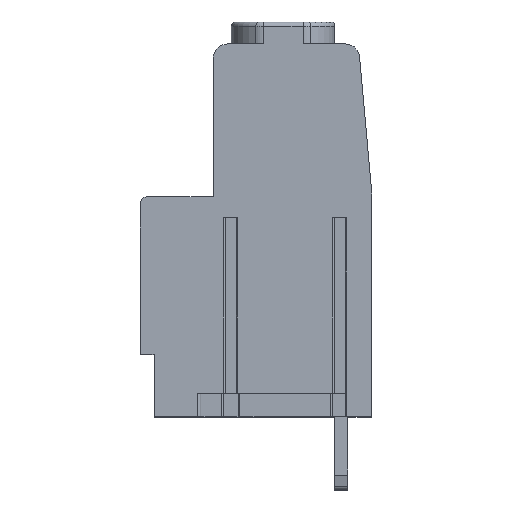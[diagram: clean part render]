
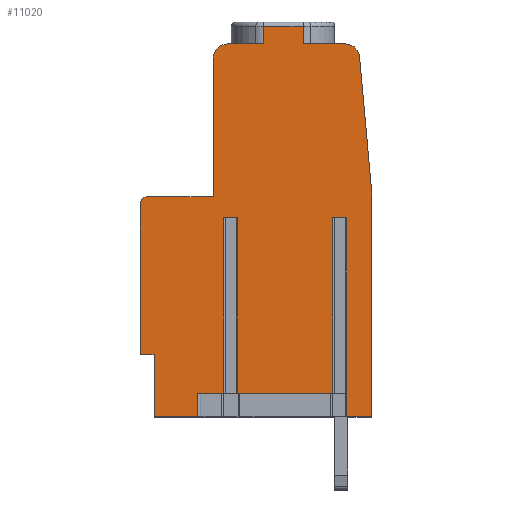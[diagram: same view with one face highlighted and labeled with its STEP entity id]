
A CAD part, top view. The second image highlights one B-rep face of the part: STEP entity #11020.
In plain terms, the highlighted planar face has unit normal (0, 0, 1).
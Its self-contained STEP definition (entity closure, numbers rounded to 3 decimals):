
#698=DIRECTION('',(1.,0.,0.));
#699=VECTOR('',#698,1.715);
#700=CARTESIAN_POINT('',(14.135,5.001,12.7));
#701=LINE('',#700,#699);
#1428=DIRECTION('',(-1.,0.,0.));
#1429=VECTOR('',#1428,1.765);
#1430=CARTESIAN_POINT('',(5.715,6.601,12.7));
#1431=LINE('',#1430,#1429);
#1432=DIRECTION('',(-1.,0.,0.));
#1433=VECTOR('',#1432,3.);
#1434=CARTESIAN_POINT('',(3.95,5.001,12.7));
#1435=LINE('',#1434,#1433);
#1436=DIRECTION('',(0.,1.,0.));
#1437=VECTOR('',#1436,4.25);
#1438=CARTESIAN_POINT('',(0.95,5.001,12.7));
#1439=LINE('',#1438,#1437);
#1440=DIRECTION('',(-1.,0.,0.));
#1441=VECTOR('',#1440,0.95);
#1442=CARTESIAN_POINT('',(0.95,9.251,12.7));
#1443=LINE('',#1442,#1441);
#1444=DIRECTION('',(0.,1.,0.));
#1445=VECTOR('',#1444,10.3);
#1446=CARTESIAN_POINT('',(0.,9.251,12.7));
#1447=LINE('',#1446,#1445);
#1448=CARTESIAN_POINT('',(0.5,19.551,12.7));
#1449=DIRECTION('',(0.,0.,-1.));
#1450=DIRECTION('',(-1.,0.,0.));
#1451=AXIS2_PLACEMENT_3D('',#1448,#1449,#1450);
#1453=DIRECTION('',(1.,0.,0.));
#1454=VECTOR('',#1453,4.5);
#1455=CARTESIAN_POINT('',(0.5,20.051,12.7));
#1456=LINE('',#1455,#1454);
#1457=DIRECTION('',(0.,1.,0.));
#1458=VECTOR('',#1457,9.45);
#1459=CARTESIAN_POINT('',(5.,20.051,12.7));
#1460=LINE('',#1459,#1458);
#1461=CARTESIAN_POINT('',(6.,29.501,12.7));
#1462=DIRECTION('',(0.,0.,-1.));
#1463=DIRECTION('',(-1.,0.,0.));
#1464=AXIS2_PLACEMENT_3D('',#1461,#1462,#1463);
#1466=DIRECTION('',(1.,0.,0.));
#1467=VECTOR('',#1466,2.449);
#1468=CARTESIAN_POINT('',(6.,30.501,12.7));
#1469=LINE('',#1468,#1467);
#1470=DIRECTION('',(1.,0.,0.));
#1471=VECTOR('',#1470,2.869);
#1472=CARTESIAN_POINT('',(11.151,30.501,12.7));
#1473=LINE('',#1472,#1471);
#1474=CARTESIAN_POINT('',(14.02,29.501,12.7));
#1475=DIRECTION('',(0.,0.,-1.));
#1476=DIRECTION('',(0.,1.,0.));
#1477=AXIS2_PLACEMENT_3D('',#1474,#1475,#1476);
#1479=DIRECTION('',(0.089,-0.996,0.));
#1480=VECTOR('',#1479,9.103);
#1481=CARTESIAN_POINT('',(15.016,29.59,12.7));
#1482=LINE('',#1481,#1480);
#1483=CARTESIAN_POINT('',(10.85,20.077,12.7));
#1484=DIRECTION('',(0.,0.,-1.));
#1485=DIRECTION('',(0.996,0.089,0.));
#1486=AXIS2_PLACEMENT_3D('',#1483,#1484,#1485);
#1488=DIRECTION('',(0.,-1.,0.));
#1489=VECTOR('',#1488,15.076);
#1490=CARTESIAN_POINT('',(15.85,20.077,12.7));
#1491=LINE('',#1490,#1489);
#1492=DIRECTION('',(-1.,0.,0.));
#1493=VECTOR('',#1492,0.97);
#1494=CARTESIAN_POINT('',(14.135,18.601,12.7));
#1495=LINE('',#1494,#1493);
#1496=DIRECTION('',(-1.,0.,0.));
#1497=VECTOR('',#1496,0.97);
#1498=CARTESIAN_POINT('',(6.685,18.601,12.7));
#1499=LINE('',#1498,#1497);
#1504=DIRECTION('',(0.,1.,0.));
#1505=VECTOR('',#1504,12.);
#1506=CARTESIAN_POINT('',(5.715,6.601,12.7));
#1507=LINE('',#1506,#1505);
#1670=DIRECTION('',(1.,0.,0.));
#1671=VECTOR('',#1670,6.48);
#1672=CARTESIAN_POINT('',(6.685,6.601,12.7));
#1673=LINE('',#1672,#1671);
#1709=DIRECTION('',(0.,-1.,0.));
#1710=VECTOR('',#1709,12.);
#1711=CARTESIAN_POINT('',(6.685,18.601,12.7));
#1712=LINE('',#1711,#1710);
#1717=DIRECTION('',(0.,1.,0.));
#1718=VECTOR('',#1717,12.);
#1719=CARTESIAN_POINT('',(13.165,6.601,12.7));
#1720=LINE('',#1719,#1718);
#1857=DIRECTION('',(0.,-1.,0.));
#1858=VECTOR('',#1857,13.6);
#1859=CARTESIAN_POINT('',(14.135,18.601,12.7));
#1860=LINE('',#1859,#1858);
#1986=DIRECTION('',(0.,1.,0.));
#1987=VECTOR('',#1986,1.6);
#1988=CARTESIAN_POINT('',(3.95,5.001,12.7));
#1989=LINE('',#1988,#1987);
#2350=DIRECTION('',(0.,-1.,0.));
#2351=VECTOR('',#2350,1.2);
#2352=CARTESIAN_POINT('',(8.449,31.701,12.7));
#2353=LINE('',#2352,#2351);
#2459=DIRECTION('',(0.,1.,0.));
#2460=VECTOR('',#2459,1.2);
#2461=CARTESIAN_POINT('',(11.151,30.501,12.7));
#2462=LINE('',#2461,#2460);
#2477=DIRECTION('',(-1.,0.,0.));
#2478=VECTOR('',#2477,2.703);
#2479=CARTESIAN_POINT('',(11.151,31.701,12.7));
#2480=LINE('',#2479,#2478);
#7258=CARTESIAN_POINT('',(0.95,5.001,12.7));
#7259=VERTEX_POINT('',#7258);
#7260=CARTESIAN_POINT('',(3.95,5.001,12.7));
#7261=VERTEX_POINT('',#7260);
#7314=CARTESIAN_POINT('',(14.135,5.001,12.7));
#7315=VERTEX_POINT('',#7314);
#7316=CARTESIAN_POINT('',(15.85,5.001,12.7));
#7317=VERTEX_POINT('',#7316);
#7526=CARTESIAN_POINT('',(0.95,9.251,12.7));
#7527=VERTEX_POINT('',#7526);
#7588=CARTESIAN_POINT('',(0.,9.251,12.7));
#7589=VERTEX_POINT('',#7588);
#7590=CARTESIAN_POINT('',(0.,19.551,12.7));
#7591=VERTEX_POINT('',#7590);
#7616=CARTESIAN_POINT('',(0.5,20.051,12.7));
#7617=VERTEX_POINT('',#7616);
#7618=CARTESIAN_POINT('',(5.,20.051,12.7));
#7619=VERTEX_POINT('',#7618);
#7620=CARTESIAN_POINT('',(5.,29.501,12.7));
#7621=VERTEX_POINT('',#7620);
#7622=CARTESIAN_POINT('',(6.,30.501,12.7));
#7623=VERTEX_POINT('',#7622);
#7632=CARTESIAN_POINT('',(8.449,30.501,12.7));
#7633=VERTEX_POINT('',#7632);
#7764=CARTESIAN_POINT('',(15.85,20.077,12.7));
#7765=VERTEX_POINT('',#7764);
#7774=CARTESIAN_POINT('',(5.715,6.601,12.7));
#7775=CARTESIAN_POINT('',(5.715,18.601,12.7));
#7776=VERTEX_POINT('',#7774);
#7777=VERTEX_POINT('',#7775);
#7778=CARTESIAN_POINT('',(3.95,6.601,12.7));
#7779=VERTEX_POINT('',#7778);
#7780=CARTESIAN_POINT('',(8.449,31.701,12.7));
#7781=VERTEX_POINT('',#7780);
#7782=CARTESIAN_POINT('',(11.151,31.701,12.7));
#7783=VERTEX_POINT('',#7782);
#7784=CARTESIAN_POINT('',(11.151,30.501,12.7));
#7785=VERTEX_POINT('',#7784);
#7786=CARTESIAN_POINT('',(14.02,30.501,12.7));
#7787=VERTEX_POINT('',#7786);
#7788=CARTESIAN_POINT('',(15.016,29.59,12.7));
#7789=VERTEX_POINT('',#7788);
#7790=CARTESIAN_POINT('',(15.83,20.524,12.7));
#7791=VERTEX_POINT('',#7790);
#7792=CARTESIAN_POINT('',(14.135,18.601,12.7));
#7793=VERTEX_POINT('',#7792);
#7794=CARTESIAN_POINT('',(13.165,18.601,12.7));
#7795=VERTEX_POINT('',#7794);
#7796=CARTESIAN_POINT('',(13.165,6.601,12.7));
#7797=VERTEX_POINT('',#7796);
#7798=CARTESIAN_POINT('',(6.685,6.601,12.7));
#7799=VERTEX_POINT('',#7798);
#7800=CARTESIAN_POINT('',(6.685,18.601,12.7));
#7801=VERTEX_POINT('',#7800);
#10970=CARTESIAN_POINT('',(9.9,5.001,12.7));
#10971=DIRECTION('',(0.,0.,1.));
#10972=DIRECTION('',(1.,0.,0.));
#10973=AXIS2_PLACEMENT_3D('',#10970,#10971,#10972);
#10974=PLANE('',#10973);
#10976=ORIENTED_EDGE('',*,*,#10975,.F.);
#10978=ORIENTED_EDGE('',*,*,#10977,.T.);
#10980=ORIENTED_EDGE('',*,*,#10979,.F.);
#10981=ORIENTED_EDGE('',*,*,#10224,.T.);
#10982=ORIENTED_EDGE('',*,*,#10484,.T.);
#10983=ORIENTED_EDGE('',*,*,#10568,.T.);
#10984=ORIENTED_EDGE('',*,*,#10583,.T.);
#10985=ORIENTED_EDGE('',*,*,#10628,.T.);
#10986=ORIENTED_EDGE('',*,*,#10643,.T.);
#10987=ORIENTED_EDGE('',*,*,#10658,.T.);
#10988=ORIENTED_EDGE('',*,*,#10673,.T.);
#10989=ORIENTED_EDGE('',*,*,#10694,.T.);
#10991=ORIENTED_EDGE('',*,*,#10990,.F.);
#10993=ORIENTED_EDGE('',*,*,#10992,.F.);
#10995=ORIENTED_EDGE('',*,*,#10994,.F.);
#10997=ORIENTED_EDGE('',*,*,#10996,.T.);
#10999=ORIENTED_EDGE('',*,*,#10998,.T.);
#11001=ORIENTED_EDGE('',*,*,#11000,.T.);
#11003=ORIENTED_EDGE('',*,*,#11002,.T.);
#11004=ORIENTED_EDGE('',*,*,#10950,.T.);
#11005=ORIENTED_EDGE('',*,*,#10280,.F.);
#11007=ORIENTED_EDGE('',*,*,#11006,.F.);
#11009=ORIENTED_EDGE('',*,*,#11008,.T.);
#11011=ORIENTED_EDGE('',*,*,#11010,.F.);
#11013=ORIENTED_EDGE('',*,*,#11012,.F.);
#11015=ORIENTED_EDGE('',*,*,#11014,.F.);
#11017=ORIENTED_EDGE('',*,*,#11016,.T.);
#11018=EDGE_LOOP('',(#10976,#10978,#10980,#10981,#10982,#10983,#10984,#10985,
#10986,#10987,#10988,#10989,#10991,#10993,#10995,#10997,#10999,#11001,#11003,
#11004,#11005,#11007,#11009,#11011,#11013,#11015,#11017));
#11019=FACE_OUTER_BOUND('',#11018,.F.);
#11020=ADVANCED_FACE('',(#11019),#10974,.T.);
#1452=CIRCLE('',#1451,0.5);
#1465=CIRCLE('',#1464,1.);
#1478=CIRCLE('',#1477,1.);
#1487=CIRCLE('',#1486,5.);
#10224=EDGE_CURVE('',#7261,#7259,#1435,.T.);
#10280=EDGE_CURVE('',#7315,#7317,#701,.T.);
#10484=EDGE_CURVE('',#7259,#7527,#1439,.T.);
#10568=EDGE_CURVE('',#7527,#7589,#1443,.T.);
#10583=EDGE_CURVE('',#7589,#7591,#1447,.T.);
#10628=EDGE_CURVE('',#7591,#7617,#1452,.T.);
#10643=EDGE_CURVE('',#7617,#7619,#1456,.T.);
#10658=EDGE_CURVE('',#7619,#7621,#1460,.T.);
#10673=EDGE_CURVE('',#7621,#7623,#1465,.T.);
#10694=EDGE_CURVE('',#7623,#7633,#1469,.T.);
#10950=EDGE_CURVE('',#7765,#7317,#1491,.T.);
#10975=EDGE_CURVE('',#7776,#7777,#1507,.T.);
#10977=EDGE_CURVE('',#7776,#7779,#1431,.T.);
#10979=EDGE_CURVE('',#7261,#7779,#1989,.T.);
#10990=EDGE_CURVE('',#7781,#7633,#2353,.T.);
#10992=EDGE_CURVE('',#7783,#7781,#2480,.T.);
#10994=EDGE_CURVE('',#7785,#7783,#2462,.T.);
#10996=EDGE_CURVE('',#7785,#7787,#1473,.T.);
#10998=EDGE_CURVE('',#7787,#7789,#1478,.T.);
#11000=EDGE_CURVE('',#7789,#7791,#1482,.T.);
#11002=EDGE_CURVE('',#7791,#7765,#1487,.T.);
#11006=EDGE_CURVE('',#7793,#7315,#1860,.T.);
#11008=EDGE_CURVE('',#7793,#7795,#1495,.T.);
#11010=EDGE_CURVE('',#7797,#7795,#1720,.T.);
#11012=EDGE_CURVE('',#7799,#7797,#1673,.T.);
#11014=EDGE_CURVE('',#7801,#7799,#1712,.T.);
#11016=EDGE_CURVE('',#7801,#7777,#1499,.T.);
